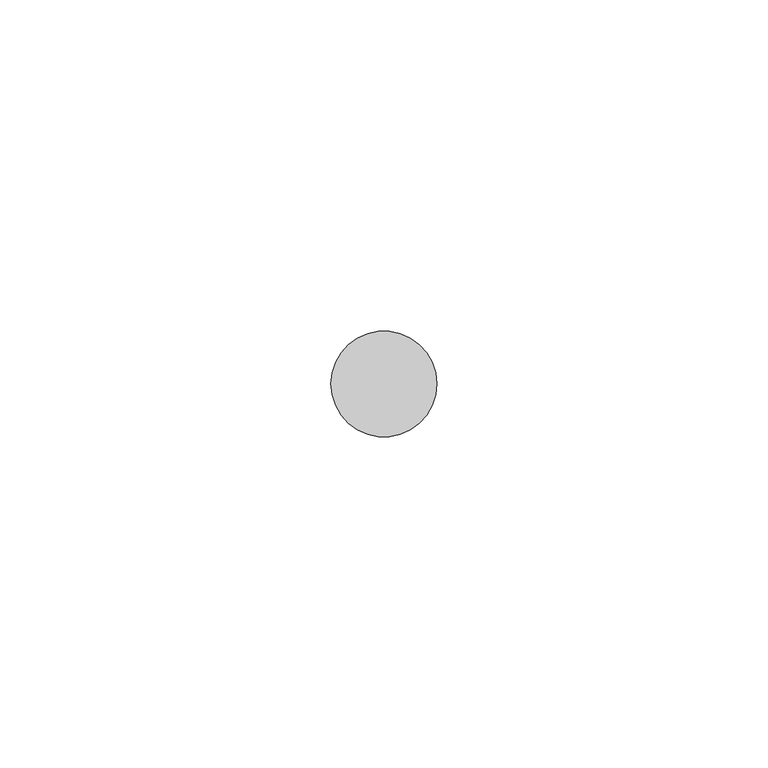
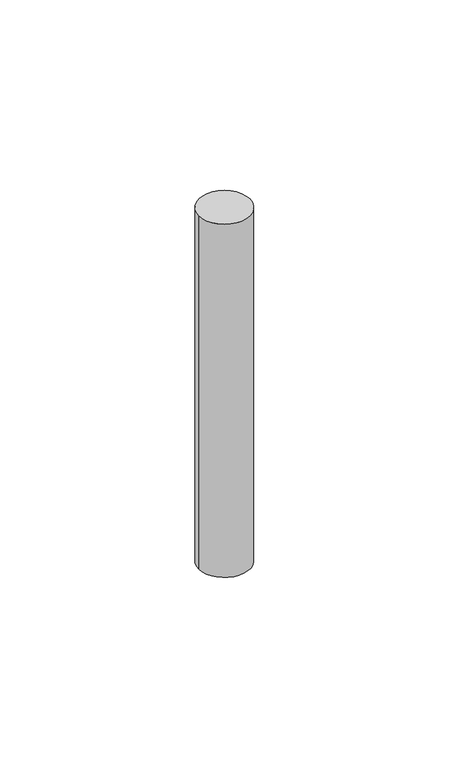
"""IFC4 building model written with IfcOpenShell, lengths in millimetres: pipe fitting geometry, СТ_Вл-3D_Подсчет_Шпилька : СТ_Вл-3D_Подсчет_Шпилька."""

from ifc_helpers import new_model, si_unit, point, origin, origin_with_axes, origin_2d, place, context, project, spatial, circle_curve, trimmed, segment, composite_curve, outline, extrude, source, transform, mapped, element, save


def pipe_fitting_4c9d8eb7(model_context):
    return source(origin(), model_context, "Body", "SweptSolid", [
        extrude(outline(composite_curve([segment(trimmed(circle_curve(origin_2d(), 8.0), [point((-8.0, 0.0))], [point((8.0, 0.0))], False, "CARTESIAN"), True, "CONTINUOUS"), segment(trimmed(circle_curve(origin_2d(), 8.0), [point((8.0, 0.0))], [point((-8.0, 0.0))], False, "CARTESIAN"), True, "CONTINUOUS")], self_intersect=False)), origin_with_axes(), (0.0, 0.0, 1.0), 117.0),
    ])


if __name__ == "__main__":
    model = new_model("IFC4")
    model_context = context("Model", 3, world=origin())
    ifc_project = project(units=[si_unit("LENGTHUNIT", "METRE", prefix="MILLI")], contexts=[model_context])
    site = spatial("IfcSite", under=ifc_project)
    building = spatial("IfcBuilding", under=site)
    placement = place(None, origin())
    pipe_fitting_shape = pipe_fitting_4c9d8eb7(model_context)
    element("IfcPipeFitting", 1, ObjectType="СТ_Вл-3D_Подсчет_Шпилька : СТ_Вл-3D_Подсчет_Шпилька", at=placement, inside=building, context=model_context, shape_type="MappedRepresentation", body=[
        mapped(pipe_fitting_shape, transform((0.0, 0.0, 0.0), x_axis=(1.0, 0.0, 0.0), y_axis=(0.0, 1.0, 0.0), z_axis=(0.0, 0.0, 1.0))),
    ])
    save(model, "model.ifc")
